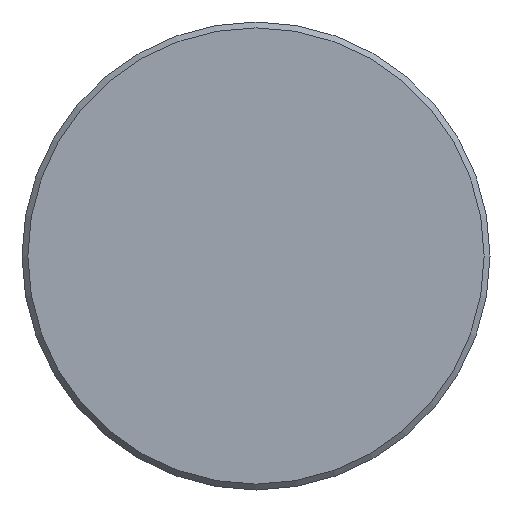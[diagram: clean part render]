
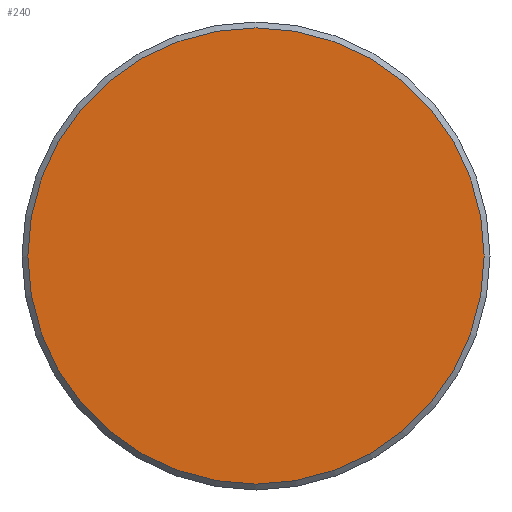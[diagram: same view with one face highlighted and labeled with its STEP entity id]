
A CAD part, front view. The second image highlights one B-rep face of the part: STEP entity #240.
In plain terms, the highlighted planar face has unit normal (0, -1, 0).
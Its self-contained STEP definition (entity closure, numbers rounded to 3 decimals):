
#240 = ADVANCED_FACE( '', ( #456 ), #457, .F. );
#456 = FACE_OUTER_BOUND( '', #652, .T. );
#457 = PLANE( '', #653 );
#652 = EDGE_LOOP( '', ( #1052 ) );
#653 = AXIS2_PLACEMENT_3D( '', #1053, #1054, #1055 );
#1052 = ORIENTED_EDGE( '', *, *, #1105, .T. );
#1053 = CARTESIAN_POINT( '', ( 19.5, 0., 0. ) );
#1054 = DIRECTION( '', ( 0., 1., 0. ) );
#1055 = DIRECTION( '', ( 0., 0., 1. ) );
#1105 = EDGE_CURVE( '', #1271, #1271, #1272, .T. );
#1271 = VERTEX_POINT( '', #1539 );
#1272 = CIRCLE( '', #1540, 19.5 );
#1539 = CARTESIAN_POINT( '', ( 0., 0., -19.5 ) );
#1540 = AXIS2_PLACEMENT_3D( '', #1968, #1969, #1970 );
#1968 = CARTESIAN_POINT( '', ( 0., 0., 0. ) );
#1969 = DIRECTION( '', ( 0., -1., 0. ) );
#1970 = DIRECTION( '', ( 0., 0., -1. ) );
